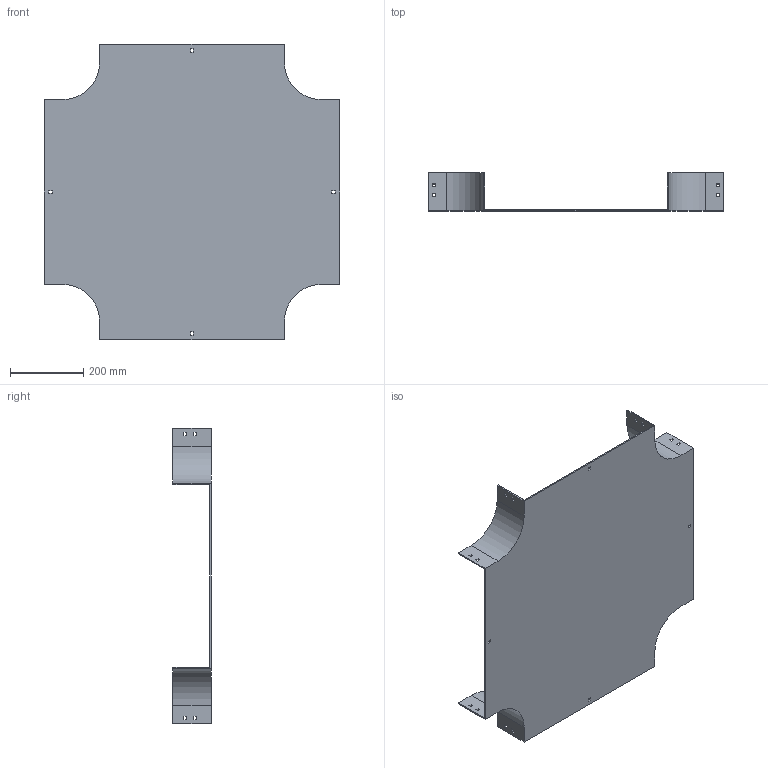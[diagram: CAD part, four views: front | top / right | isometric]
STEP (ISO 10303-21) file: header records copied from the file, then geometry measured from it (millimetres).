
FILE_DESCRIPTION (( 'STEP AP214' ), '1' );
FILE_NAME ('17B1D500.step', '2025-02-21T09:56:23', ( '' ), ( '' ), 'SwSTEP 2.0', 'SolidWorks 2023', '' );
FILE_SCHEMA (( 'AUTOMOTIVE_DESIGN' ));
Length unit declared in the file: millimetre
Products named in the file (1): 17B1D500
Bounding box: 804 x 104 x 804 mm (x, y, z)
Volume: 2338340 mm3; surface area: 1352001.4 mm2
Topology: 1 solids, 1 shells, 114 faces, 336 edges, 224 vertices
Faces by surface type: plane 106, cylinder 8
Entity records: 3839 total; most frequent: CARTESIAN_POINT 675, ORIENTED_EDGE 672, DIRECTION 582, EDGE_CURVE 336, LINE 320, VECTOR 320, VERTEX_POINT 224, EDGE_LOOP 154
